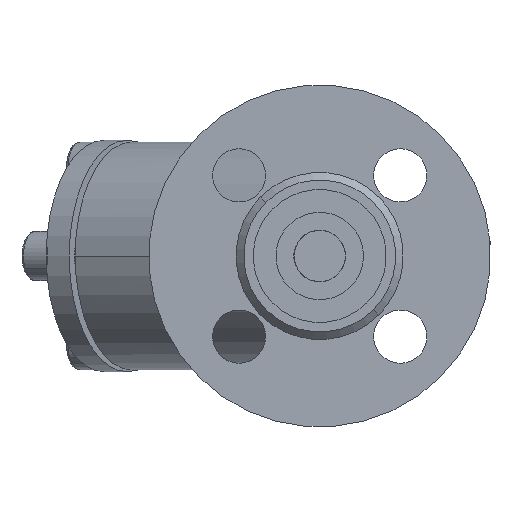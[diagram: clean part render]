
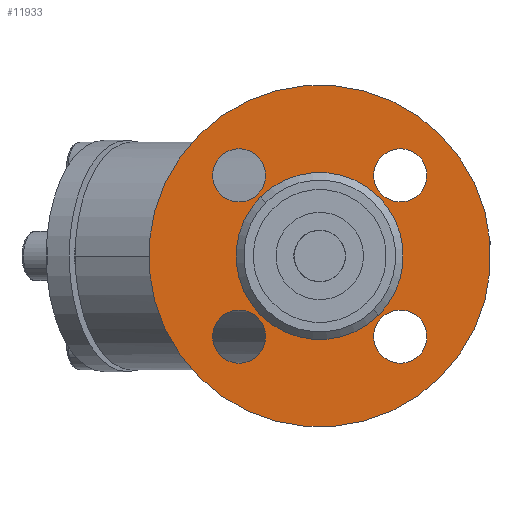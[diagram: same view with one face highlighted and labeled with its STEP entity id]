
A CAD part, left-side view. The second image highlights one B-rep face of the part: STEP entity #11933.
In plain terms, the highlighted planar face has unit normal (-1, 0, 0) as drawn and (0, -1, 0) by its records, which use the part's own axes.
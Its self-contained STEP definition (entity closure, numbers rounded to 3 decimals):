
#344 = EDGE_LOOP ( 'NONE', ( #18674, #18192 ) ) ;
#572 = ORIENTED_EDGE ( 'NONE', *, *, #3581, .F. ) ;
#917 = VERTEX_POINT ( 'NONE', #10644 ) ;
#1054 = CARTESIAN_POINT ( 'NONE',  ( 7., 2., -30. ) ) ;
#1060 = ORIENTED_EDGE ( 'NONE', *, *, #14232, .F. ) ;
#1115 = CIRCLE ( 'NONE', #1116, 7. ) ;
#1116 = AXIS2_PLACEMENT_3D ( 'NONE', #1117, #1118, #1119 ) ;
#1117 = CARTESIAN_POINT ( 'NONE',  ( 0., 2., -30. ) ) ;
#1118 = DIRECTION ( 'NONE',  ( 0., 1., 0. ) ) ;
#1119 = DIRECTION ( 'NONE',  ( -1., 0., 0. ) ) ;
#1542 = EDGE_LOOP ( 'NONE', ( #1060, #572 ) ) ;
#1706 = CARTESIAN_POINT ( 'NONE',  ( 7., 2., 30. ) ) ;
#1712 = CIRCLE ( 'NONE', #1713, 45. ) ;
#1713 = AXIS2_PLACEMENT_3D ( 'NONE', #1716, #1717, #1718 ) ;
#1716 = CARTESIAN_POINT ( 'NONE',  ( 0., 2., 0. ) ) ;
#1717 = DIRECTION ( 'NONE',  ( 0., 1., 0. ) ) ;
#1718 = DIRECTION ( 'NONE',  ( -1., 0., 0. ) ) ;
#1728 = CIRCLE ( 'NONE', #1729, 7. ) ;
#1729 = AXIS2_PLACEMENT_3D ( 'NONE', #1730, #1731, #1732 ) ;
#1730 = CARTESIAN_POINT ( 'NONE',  ( 0., 2., -30. ) ) ;
#1731 = DIRECTION ( 'NONE',  ( 0., 1., 0. ) ) ;
#1732 = DIRECTION ( 'NONE',  ( -1., 0., 0. ) ) ;
#18123 = VERTEX_POINT ( 'NONE', #1706 ) ;
#18192 = ORIENTED_EDGE ( 'NONE', *, *, #11278, .T. ) ;
#2141 = EDGE_LOOP ( 'NONE', ( #15908, #15075 ) ) ;
#18595 = CARTESIAN_POINT ( 'NONE',  ( -7., 2., -30. ) ) ;
#18615 = CIRCLE ( 'NONE', #18616, 7. ) ;
#18616 = AXIS2_PLACEMENT_3D ( 'NONE', #18617, #18618, #18619 ) ;
#18617 = CARTESIAN_POINT ( 'NONE',  ( 0., 2., 30. ) ) ;
#18618 = DIRECTION ( 'NONE',  ( 0., 1., 0. ) ) ;
#18619 = DIRECTION ( 'NONE',  ( -1., 0., 0. ) ) ;
#18674 = ORIENTED_EDGE ( 'NONE', *, *, #6152, .T. ) ;
#18715 = CARTESIAN_POINT ( 'NONE',  ( 45., 2., 0. ) ) ;
#2367 = ORIENTED_EDGE ( 'NONE', *, *, #14666, .T. ) ;
#2852 = EDGE_CURVE ( 'NONE', #4842, #18123, #18615, .T. ) ;
#3200 = ORIENTED_EDGE ( 'NONE', *, *, #2852, .T. ) ;
#3581 = EDGE_CURVE ( 'NONE', #8674, #14667, #1712, .T. ) ;
#3683 = EDGE_LOOP ( 'NONE', ( #3200, #2367 ) ) ;
#3737 = VERTEX_POINT ( 'NONE', #5773 ) ;
#3910 = ORIENTED_EDGE ( 'NONE', *, *, #10587, .T. ) ;
#4390 = EDGE_CURVE ( 'NONE', #10204, #10417, #7496, .T. ) ;
#4735 = ORIENTED_EDGE ( 'NONE', *, *, #4390, .T. ) ;
#4842 = VERTEX_POINT ( 'NONE', #8291 ) ;
#5773 = CARTESIAN_POINT ( 'NONE',  ( -22., 2., 0. ) ) ;
#5924 = CARTESIAN_POINT ( 'NONE',  ( -37., 2., 0. ) ) ;
#6152 = EDGE_CURVE ( 'NONE', #3737, #12410, #11510, .T. ) ;
#6597 = CIRCLE ( 'NONE', #6598, 45. ) ;
#6598 = AXIS2_PLACEMENT_3D ( 'NONE', #6599, #6600, #6601 ) ;
#6599 = CARTESIAN_POINT ( 'NONE',  ( 0., 2., 0. ) ) ;
#6600 = DIRECTION ( 'NONE',  ( 0., 1., 0. ) ) ;
#6601 = DIRECTION ( 'NONE',  ( -1., 0., 0. ) ) ;
#7496 = CIRCLE ( 'NONE', #7497, 7. ) ;
#7497 = AXIS2_PLACEMENT_3D ( 'NONE', #7498, #7499, #7500 ) ;
#7498 = CARTESIAN_POINT ( 'NONE',  ( -30., 2., 0. ) ) ;
#7499 = DIRECTION ( 'NONE',  ( 0., 1., 0. ) ) ;
#7500 = DIRECTION ( 'NONE',  ( -1., 0., 0. ) ) ;
#7707 = CIRCLE ( 'NONE', #7708, 7. ) ;
#7708 = AXIS2_PLACEMENT_3D ( 'NONE', #7709, #7710, #7711 ) ;
#7709 = CARTESIAN_POINT ( 'NONE',  ( 0., 2., 30. ) ) ;
#7710 = DIRECTION ( 'NONE',  ( 0., 1., 0. ) ) ;
#7711 = DIRECTION ( 'NONE',  ( -1., 0., 0. ) ) ;
#7712 = CARTESIAN_POINT ( 'NONE',  ( -45., 2., 0. ) ) ;
#8163 = CARTESIAN_POINT ( 'NONE',  ( -23., 2., 0. ) ) ;
#8291 = CARTESIAN_POINT ( 'NONE',  ( -7., 2., 30. ) ) ;
#8329 = CIRCLE ( 'NONE', #8330, 7. ) ;
#8330 = AXIS2_PLACEMENT_3D ( 'NONE', #8331, #8332, #8352 ) ;
#8331 = CARTESIAN_POINT ( 'NONE',  ( -30., 2., 0. ) ) ;
#8332 = DIRECTION ( 'NONE',  ( 0., 1., 0. ) ) ;
#8352 = DIRECTION ( 'NONE',  ( -1., 0., 0. ) ) ;
#8585 = EDGE_LOOP ( 'NONE', ( #4735, #3910 ) ) ;
#8674 = VERTEX_POINT ( 'NONE', #18715 ) ;
#8814 = ORIENTED_EDGE ( 'NONE', *, *, #13263, .T. ) ;
#9297 = EDGE_CURVE ( 'NONE', #12919, #13127, #1728, .T. ) ;
#9648 = ORIENTED_EDGE ( 'NONE', *, *, #9297, .T. ) ;
#10204 = VERTEX_POINT ( 'NONE', #5924 ) ;
#10298 = EDGE_LOOP ( 'NONE', ( #9648, #8814 ) ) ;
#10417 = VERTEX_POINT ( 'NONE', #8163 ) ;
#10587 = EDGE_CURVE ( 'NONE', #10417, #10204, #8329, .T. ) ;
#10644 = CARTESIAN_POINT ( 'NONE',  ( 37., 2., 0. ) ) ;
#10716 = CARTESIAN_POINT ( 'NONE',  ( 23., 2., 0. ) ) ;
#10739 = CIRCLE ( 'NONE', #10740, 7. ) ;
#10740 = AXIS2_PLACEMENT_3D ( 'NONE', #10741, #10742, #10743 ) ;
#10741 = CARTESIAN_POINT ( 'NONE',  ( 30., 2., 0. ) ) ;
#10742 = DIRECTION ( 'NONE',  ( 0., 1., 0. ) ) ;
#10743 = DIRECTION ( 'NONE',  ( -1., 0., 0. ) ) ;
#10869 = CIRCLE ( 'NONE', #10870, 22. ) ;
#10870 = AXIS2_PLACEMENT_3D ( 'NONE', #10871, #10872, #10873 ) ;
#10871 = CARTESIAN_POINT ( 'NONE',  ( 0., 2., 0. ) ) ;
#10872 = DIRECTION ( 'NONE',  ( 0., 1., 0. ) ) ;
#10873 = DIRECTION ( 'NONE',  ( -1., 0., 0. ) ) ;
#11179 = CIRCLE ( 'NONE', #11180, 7. ) ;
#11180 = AXIS2_PLACEMENT_3D ( 'NONE', #11181, #11182, #11183 ) ;
#11181 = CARTESIAN_POINT ( 'NONE',  ( 30., 2., 0. ) ) ;
#11182 = DIRECTION ( 'NONE',  ( 0., 1., 0. ) ) ;
#11183 = DIRECTION ( 'NONE',  ( -1., 0., 0. ) ) ;
#11278 = EDGE_CURVE ( 'NONE', #12410, #3737, #10869, .T. ) ;
#11510 = CIRCLE ( 'NONE', #11511, 22. ) ;
#11511 = AXIS2_PLACEMENT_3D ( 'NONE', #11512, #11513, #11514 ) ;
#11512 = CARTESIAN_POINT ( 'NONE',  ( 0., 2., 0. ) ) ;
#11513 = DIRECTION ( 'NONE',  ( 0., 1., 0. ) ) ;
#11514 = DIRECTION ( 'NONE',  ( -1., 0., 0. ) ) ;
#11685 = FACE_BOUND ( 'NONE', #10298, .T. ) ;
#11686 = FACE_BOUND ( 'NONE', #8585, .T. ) ;
#11687 = FACE_BOUND ( 'NONE', #3683, .T. ) ;
#11688 = FACE_BOUND ( 'NONE', #2141, .T. ) ;
#11689 = FACE_OUTER_BOUND ( 'NONE', #1542, .T. ) ;
#11690 = FACE_BOUND ( 'NONE', #344, .T. ) ;
#11691 = PLANE ( 'NONE',  #11692 ) ;
#11692 = AXIS2_PLACEMENT_3D ( 'NONE', #11693, #11694, #11695 ) ;
#11693 = CARTESIAN_POINT ( 'NONE',  ( 22., 2., 0. ) ) ;
#11694 = DIRECTION ( 'NONE',  ( 0., 1., 0. ) ) ;
#11695 = DIRECTION ( 'NONE',  ( -1., 0., 0. ) ) ;
#11933 = ADVANCED_FACE ( 'NONE', ( #11685, #11686, #11687, #11688, #11689, #11690 ), #11691, .F. ) ;
#12053 = CARTESIAN_POINT ( 'NONE',  ( 22., 2., 0. ) ) ;
#12410 = VERTEX_POINT ( 'NONE', #12053 ) ;
#12919 = VERTEX_POINT ( 'NONE', #18595 ) ;
#13127 = VERTEX_POINT ( 'NONE', #1054 ) ;
#13263 = EDGE_CURVE ( 'NONE', #13127, #12919, #1115, .T. ) ;
#14232 = EDGE_CURVE ( 'NONE', #14667, #8674, #6597, .T. ) ;
#14666 = EDGE_CURVE ( 'NONE', #18123, #4842, #7707, .T. ) ;
#14667 = VERTEX_POINT ( 'NONE', #7712 ) ;
#15075 = ORIENTED_EDGE ( 'NONE', *, *, #15783, .T. ) ;
#15526 = VERTEX_POINT ( 'NONE', #10716 ) ;
#15560 = EDGE_CURVE ( 'NONE', #15526, #917, #10739, .T. ) ;
#15783 = EDGE_CURVE ( 'NONE', #917, #15526, #11179, .T. ) ;
#15908 = ORIENTED_EDGE ( 'NONE', *, *, #15560, .T. ) ;
